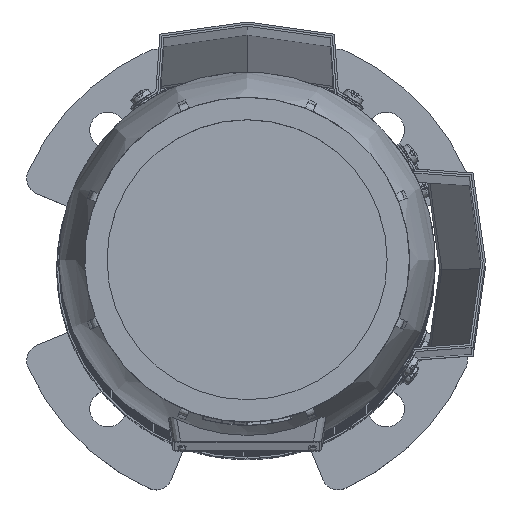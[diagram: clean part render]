
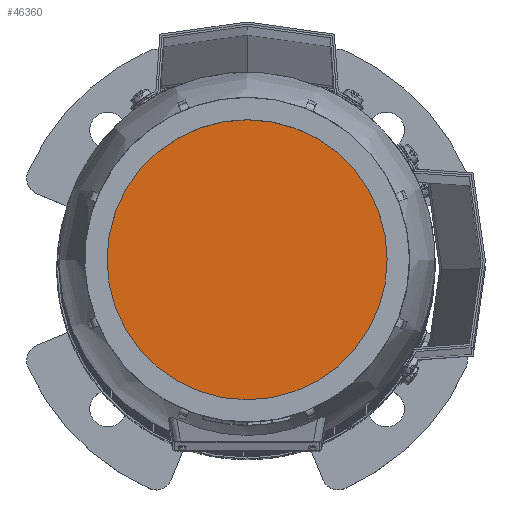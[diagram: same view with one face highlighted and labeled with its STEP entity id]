
A CAD part, top view. The second image highlights one B-rep face of the part: STEP entity #46360.
In plain terms, the highlighted planar face has unit normal (0, 0, 1) as drawn and (0, 1, 0) by its records, which use the part's own axes.
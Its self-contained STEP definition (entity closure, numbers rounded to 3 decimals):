
#9753=ORIENTED_EDGE('',*,*,#23699,.F.);
#23699=EDGE_CURVE('',#30672,#30672,#35379,.T.);
#30672=VERTEX_POINT('',#67009);
#35379=CIRCLE('',#48919,67.736);
#37501=EDGE_LOOP('',(#9753));
#40915=FACE_BOUND('',#37501,.T.);
#44347=PLANE('',#48918);
#46360=ADVANCED_FACE('',(#40915),#44347,.F.);
#48918=AXIS2_PLACEMENT_3D('',#67007,#53534,#53535);
#48919=AXIS2_PLACEMENT_3D('',#67008,#53536,#53537);
#53534=DIRECTION('',(0.,-1.,0.));
#53535=DIRECTION('',(0.,0.,-1.));
#53536=DIRECTION('',(0.,-1.,0.));
#53537=DIRECTION('',(0.,0.,-1.));
#67007=CARTESIAN_POINT('',(0.,154.,0.));
#67008=CARTESIAN_POINT('',(0.,154.,0.));
#67009=CARTESIAN_POINT('',(0.,154.,-67.736));
